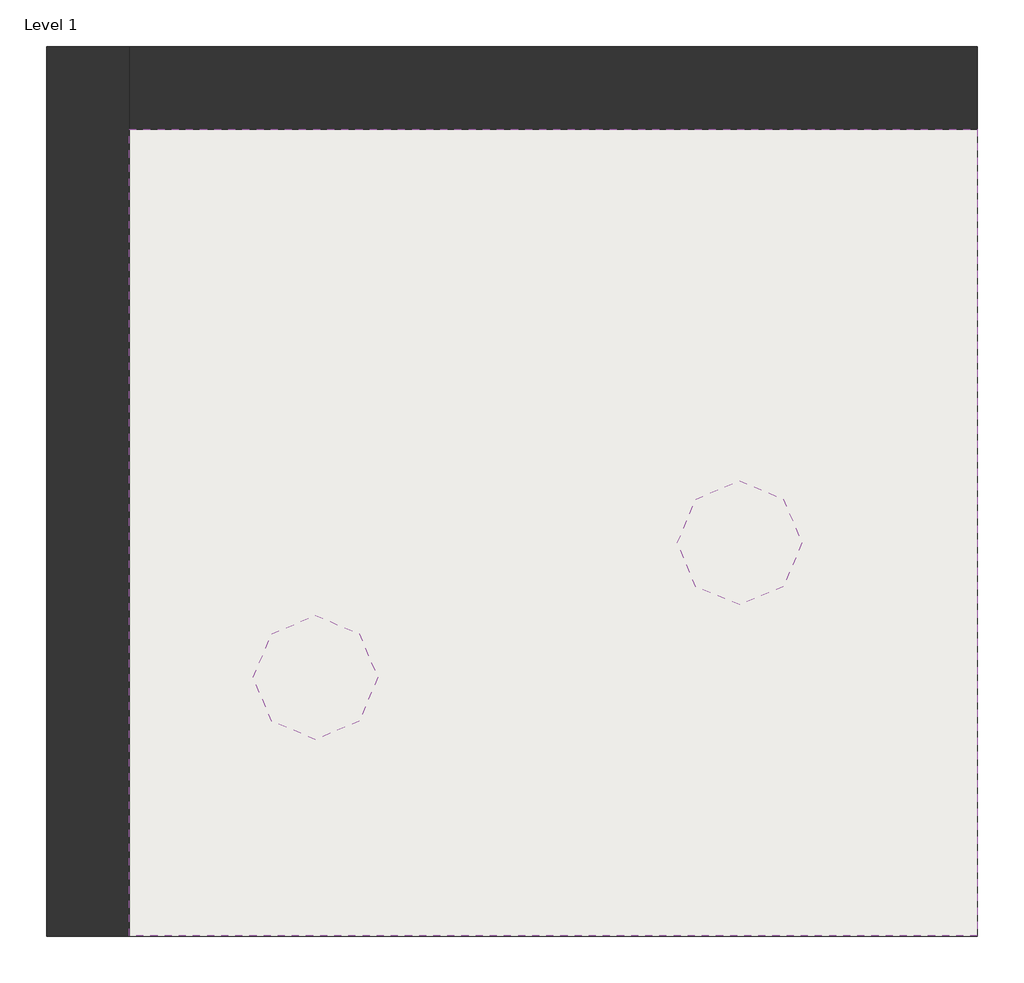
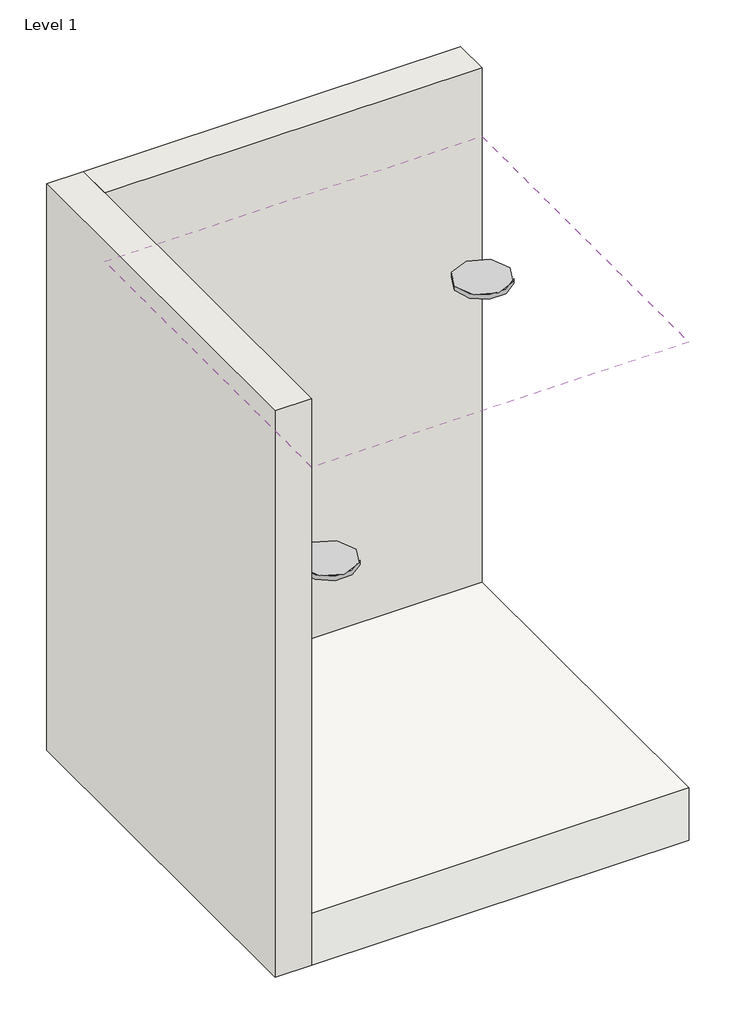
# One storey: 2 light fixtures, 2 walls, 1 covering, 1 slab.
"""IFC4 building model written with IfcOpenShell, lengths in millimetres."""

from ifc_helpers import new_model, si_unit, frame, origin, place, context, project, spatial, polyline, outline, extrude, faceted_brep, transform, mapped, element, save
from components import light_fixture_42e2b3af

model = new_model("IFC4")

# Units and contexts
model_context = context("Model", 3, world=origin())
ifc_project = project(units=[si_unit("LENGTHUNIT", "METRE", prefix="MILLI")], contexts=[model_context])

# Site, building, storey
site = spatial("IfcSite", under=ifc_project)
building = spatial("IfcBuilding", under=site)
storey = spatial("IfcBuildingStorey", under=building, Name="Level 1", Elevation=0.0)

# Covering
placement = place(None, origin())
element("IfcCovering", 1, ObjectType="Ceiling 2", at=placement, inside=storey, context=model_context, shape_type="SweptSolid", body=[
    extrude(outline(polyline([(4291.0676417, 3741.7404022), (4291.0676417, 1760.5404022), (2208.2676417, 1760.5404022), (2208.2676417, 3741.7404022), (4291.0676417, 3741.7404022)])), frame((0.0, 0.0, 2600.0), z_axis=(0.0, 0.0, 1.0), x_axis=(1.0, 0.0, 0.0)), (0.0, 0.0, 1.0), 25.4),
])

# Light fixtures
light_fixture_shape = light_fixture_42e2b3af(model_context)
element("IfcLightFixture", 2, ObjectType="LCMPD12R_SURFACE MOUNT BASIC : LCMPD12RW-T30", at=placement, inside=storey, context=model_context, shape_type="MappedRepresentation", body=[
    mapped(light_fixture_shape, transform((3706.8676417, 2759.5396904, 2600.0), x_axis=(1.0, 0.0, 0.0), y_axis=(0.0, 1.0, 0.0), z_axis=(0.0, 0.0, 1.0))),
])
element("IfcLightFixture", 3, ObjectType="LCMPD12R_SURFACE MOUNT BASIC : LCMPD12RW-T30", at=placement, inside=storey, context=model_context, shape_type="MappedRepresentation", body=[
    mapped(light_fixture_shape, transform((2665.4676417, 2429.3396904, 1524.0), x_axis=(1.0, 0.0, 0.0), y_axis=(0.0, 1.0, 0.0), z_axis=(0.0, 0.0, 1.0))),
])

# Slab
element("IfcSlab", 4, ObjectType="Floor 1", at=placement, inside=storey, context=model_context, shape_type="SweptSolid", body=[
    extrude(outline(polyline([(4291.0676417, 3741.7404022), (4291.0676417, 1760.5404022), (2208.2676417, 1760.5404022), (2208.2676417, 3741.7404022), (4291.0676417, 3741.7404022)])), frame((0.0, 0.0, -304.8), z_axis=(0.0, 0.0, 1.0), x_axis=(1.0, 0.0, 0.0)), (0.0, 0.0, 1.0), 304.8),
])

# Walls
element("IfcWall", 5, ObjectType="Wall 1", at=placement, inside=storey, context=model_context, shape_type="Brep", body=[
    faceted_brep([(2005.0676417, 3944.9404022, -304.8), (2005.0676417, 1760.5404022, -304.8), (2005.0676417, 1760.5404022, 3000.0), (2005.0676417, 3944.9404022, 3000.0), (2208.2676417, 3944.9404022, -304.8), (2208.2676417, 3944.9404022, 3000.0), (2208.2676417, 3741.7404022, 3000.0), (2208.2676417, 1760.5404022, 3000.0), (2208.2676417, 1760.5404022, -304.8), (2208.2676417, 3741.7404022, -304.8)], [[[0, 1, 2, 3]], [[4, 5, 6, 7, 8, 9]], [[1, 0, 4, 9, 8]], [[2, 1, 8, 7]], [[3, 2, 7, 6, 5]], [[0, 3, 5, 4]]]),
])
element("IfcWall", 6, ObjectType="Wall 1", at=placement, inside=storey, context=model_context, shape_type="SweptSolid", body=[
    extrude(outline(polyline([(4291.0676417, 3741.7404022), (2208.2676417, 3741.7404022), (2208.2676417, 3944.9404022), (4291.0676417, 3944.9404022), (4291.0676417, 3741.7404022)])), frame((0.0, 0.0, -304.8), z_axis=(0.0, 0.0, 1.0), x_axis=(1.0, 0.0, 0.0)), (0.0, 0.0, 1.0), 3304.8),
])

save(model, "model.ifc")
